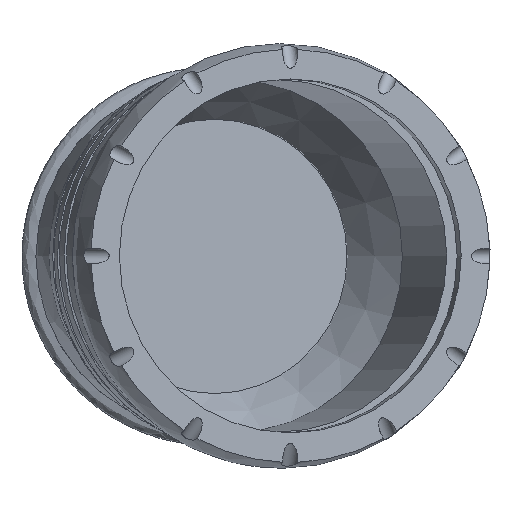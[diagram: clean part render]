
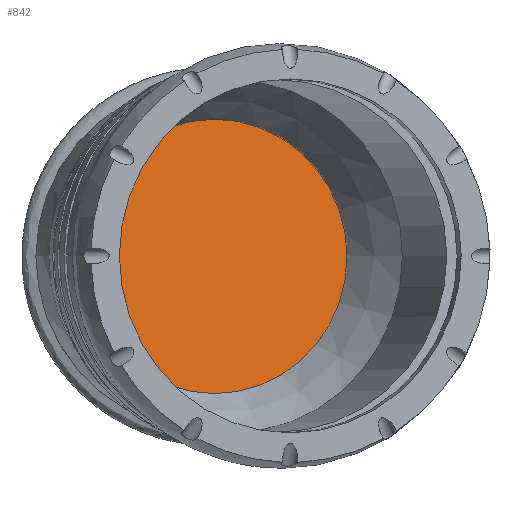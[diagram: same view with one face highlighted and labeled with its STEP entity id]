
A CAD part, top view. The second image highlights one B-rep face of the part: STEP entity #842.
In plain terms, the highlighted planar face has unit normal (0.259, 0, 0.966).
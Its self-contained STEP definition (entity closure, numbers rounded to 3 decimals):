
#91=PLANE('',#904);
#100=FACE_OUTER_BOUND('',#150,.T.);
#150=EDGE_LOOP('',(#544));
#226=CIRCLE('',#901,44.);
#332=VERTEX_POINT('',#1254);
#422=EDGE_CURVE('',#332,#332,#226,.T.);
#544=ORIENTED_EDGE('',*,*,#422,.F.);
#842=ADVANCED_FACE('',(#100),#91,.F.);
#901=AXIS2_PLACEMENT_3D('',#1256,#989,#990);
#904=AXIS2_PLACEMENT_3D('',#1260,#995,#996);
#989=DIRECTION('center_axis',(-0.259,0.,
-0.966));
#990=DIRECTION('ref_axis',(0.966,0.,-0.259));
#995=DIRECTION('center_axis',(-0.259,0.,
-0.966));
#996=DIRECTION('ref_axis',(-0.966,0.,0.259));
#1254=CARTESIAN_POINT('',(-41.605,0.,85.232));
#1256=CARTESIAN_POINT('Origin',(0.896,0.,73.844));
#1260=CARTESIAN_POINT('Origin',(0.896,0.,73.844));
